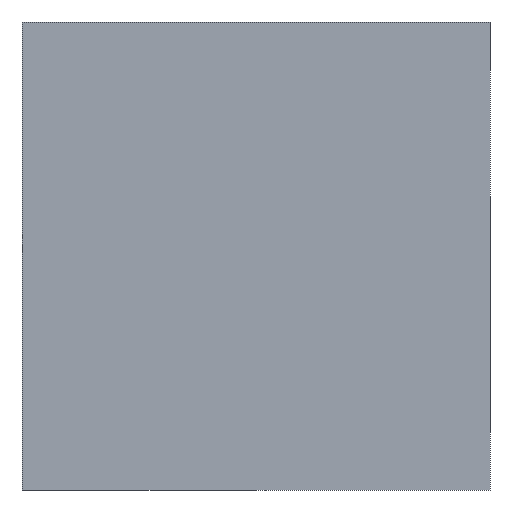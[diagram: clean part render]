
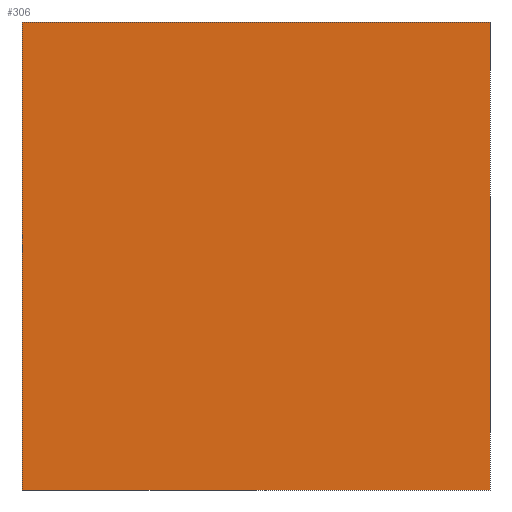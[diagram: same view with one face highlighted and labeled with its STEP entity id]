
A CAD part, left-side view. The second image highlights one B-rep face of the part: STEP entity #306.
In plain terms, the highlighted planar face has unit normal (-1, 0, 0).
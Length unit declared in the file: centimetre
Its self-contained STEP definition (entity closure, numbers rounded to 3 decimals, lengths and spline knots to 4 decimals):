
#21 = VERTEX_POINT ( 'NONE', #269 ) ;
#76 = VECTOR ( 'NONE', #533, 100. ) ;
#136 = CARTESIAN_POINT ( 'NONE',  ( 0., 1000., 1000. ) ) ;
#159 = EDGE_CURVE ( 'NONE', #429, #21, #242, .T. ) ;
#163 = CARTESIAN_POINT ( 'NONE',  ( 0., 0., 1000. ) ) ;
#167 = VECTOR ( 'NONE', #238, 100. ) ;
#171 = DIRECTION ( 'NONE',  ( 0., -1., 0. ) ) ;
#188 = DIRECTION ( 'NONE',  ( 0., -1., 0. ) ) ;
#195 = LINE ( 'NONE', #163, #167 ) ;
#197 = VERTEX_POINT ( 'NONE', #255 ) ;
#209 = AXIS2_PLACEMENT_3D ( 'NONE', #444, #439, #240 ) ;
#229 = CARTESIAN_POINT ( 'NONE',  ( 0., 1000., 0. ) ) ;
#238 = DIRECTION ( 'NONE',  ( 0., 0., -1. ) ) ;
#240 = DIRECTION ( 'NONE',  ( 0., 0., -1. ) ) ;
#242 = LINE ( 'NONE', #366, #76 ) ;
#243 = ORIENTED_EDGE ( 'NONE', *, *, #465, .T. ) ;
#255 = CARTESIAN_POINT ( 'NONE',  ( 0., 0., 1000. ) ) ;
#260 = LINE ( 'NONE', #136, #430 ) ;
#265 = CARTESIAN_POINT ( 'NONE',  ( 0., 1000., 1000. ) ) ;
#266 = EDGE_CURVE ( 'NONE', #429, #197, #260, .T. ) ;
#269 = CARTESIAN_POINT ( 'NONE',  ( 0., 1000., 0. ) ) ;
#303 = ORIENTED_EDGE ( 'NONE', *, *, #159, .T. ) ;
#306 = ADVANCED_FACE ( 'NONE', ( #358 ), #441, .F. ) ;
#322 = ORIENTED_EDGE ( 'NONE', *, *, #526, .F. ) ;
#333 = EDGE_LOOP ( 'NONE', ( #243, #322, #388, #303 ) ) ;
#352 = VERTEX_POINT ( 'NONE', #522 ) ;
#358 = FACE_OUTER_BOUND ( 'NONE', #333, .T. ) ;
#366 = CARTESIAN_POINT ( 'NONE',  ( 0., 1000., 1000. ) ) ;
#388 = ORIENTED_EDGE ( 'NONE', *, *, #266, .F. ) ;
#394 = LINE ( 'NONE', #229, #506 ) ;
#429 = VERTEX_POINT ( 'NONE', #265 ) ;
#430 = VECTOR ( 'NONE', #171, 100. ) ;
#439 = DIRECTION ( 'NONE',  ( 1., 0., 0. ) ) ;
#441 = PLANE ( 'NONE',  #209 ) ;
#444 = CARTESIAN_POINT ( 'NONE',  ( 0., 1000., 1000. ) ) ;
#465 = EDGE_CURVE ( 'NONE', #21, #352, #394, .T. ) ;
#506 = VECTOR ( 'NONE', #188, 100. ) ;
#522 = CARTESIAN_POINT ( 'NONE',  ( 0., 0., 0. ) ) ;
#526 = EDGE_CURVE ( 'NONE', #197, #352, #195, .T. ) ;
#533 = DIRECTION ( 'NONE',  ( 0., 0., -1. ) ) ;
